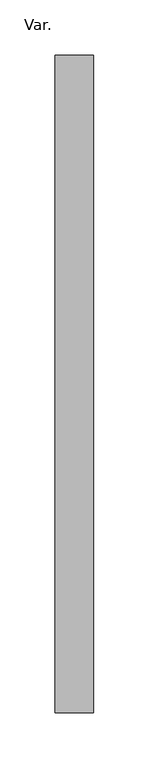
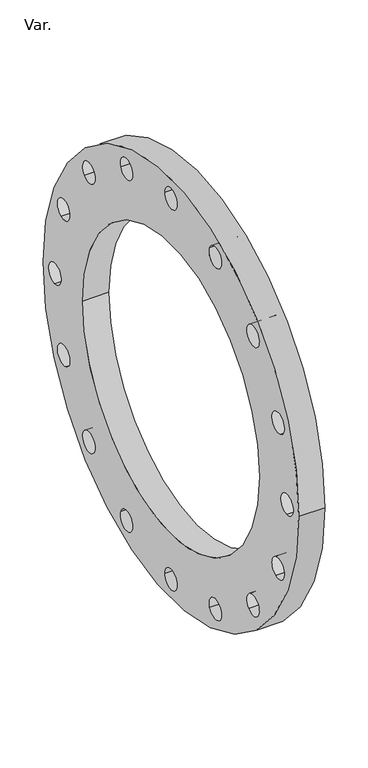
"""IFC4 building model written with IfcOpenShell, lengths in millimetres: pipe fitting geometry, PavcoWavin_UnionesDeTuberia_PEAD Acuaflex_ZNousarFlancheMetálicoUniversal : Var.."""

import ifcopenshell
import ifcopenshell.guid

model = None  # the IFC model being written
_history = None  # IfcOwnerHistory: only IFC2X3 demands one
_inside = {}  # id of a spatial element -> (the spatial element, [elements in it])
_under = {}  # id of a project, library or spatial element -> (it, [spatial elements below it])
_declared = {}  # id of a project -> (the project, [libraries it declares])
_typed = {}  # id of a type object -> (the type object, [elements of that type])
_made_of = {}  # id of a material, layer set ... -> (it, [elements and type objects made of it])


def new_model(schema):
    """Start an empty IFC model of exactly this schema.

    Asked for "IFC4X3", IfcOpenShell would pick the latest addendum, in which some entities
    have other attributes; the version numbers below select the first issue.
    IFC2X3 requires an IfcOwnerHistory on every rooted entity: one is made here for all.
    """
    global model, _history
    if schema == "IFC4X3":
        model = ifcopenshell.file(schema_version=(4, 3, 0, 0))
    else:
        model = ifcopenshell.file(schema=schema)
    _inside.clear()
    _under.clear()
    _declared.clear()
    _typed.clear()
    _made_of.clear()
    _history = None
    if model.schema == "IFC2X3":
        org = make("IfcOrganization", Name="unknown")
        user = make(
            "IfcPersonAndOrganization",
            ThePerson=make("IfcPerson", FamilyName="unknown"),
            TheOrganization=org,
        )
        app = make(
            "IfcApplication",
            ApplicationDeveloper=org,
            Version="unknown",
            ApplicationFullName="unknown",
            ApplicationIdentifier="unknown",
        )
        _history = make(
            "IfcOwnerHistory",
            OwningUser=user,
            OwningApplication=app,
            ChangeAction="ADDED",
            CreationDate=0,
        )
    return model


def make(cls, **values):
    """One entity of the class cls with the attributes given. An attribute that is None is left unset."""
    return model.create_entity(
        cls, **{name: value for name, value in values.items() if value is not None}
    )


def rooted(cls, **values):
    """An entity with a GlobalId (a new one), such as an element, a storey or a relation."""
    return make(cls, GlobalId=ifcopenshell.guid.new(), OwnerHistory=_history, **values)


def si_unit(unit_type, name, prefix=None):
    """IfcSIUnit, for example si_unit("LENGTHUNIT", "METRE", prefix="MILLI")."""
    return make("IfcSIUnit", UnitType=unit_type, Prefix=prefix, Name=name)


def assignment(units):
    """IfcUnitAssignment: the units of a project."""
    return None if units is None else make("IfcUnitAssignment", Units=units)


def point(xyz):
    """IfcCartesianPoint."""
    return None if xyz is None else make("IfcCartesianPoint", Coordinates=xyz)


def direction(xyz):
    """IfcDirection."""
    return None if xyz is None else make("IfcDirection", DirectionRatios=xyz)


def frame(location, z_axis=None, x_axis=None):
    """IfcAxis2Placement3D, a coordinate frame: its origin and axes. An axis left out is left unset."""
    return make(
        "IfcAxis2Placement3D",
        Location=point(location),
        Axis=direction(z_axis),
        RefDirection=direction(x_axis),
    )


def frame_2d(location, x_axis=None):
    """IfcAxis2Placement2D, a coordinate frame in the plane: its origin and x axis."""
    return make(
        "IfcAxis2Placement2D", Location=point(location), RefDirection=direction(x_axis)
    )


def origin():
    """The frame at (0, 0, 0) with its axes left unset."""
    return frame((0.0, 0.0, 0.0))


def origin_2d():
    """The frame at (0, 0) in the plane with its x axis left unset."""
    return frame_2d((0.0, 0.0))


def place(relative_to, where):
    """IfcLocalPlacement: puts the frame where relative to a parent placement (None: the world)."""
    return make(
        "IfcLocalPlacement", PlacementRelTo=relative_to, RelativePlacement=where
    )


def context(
    kind, dimensions, precision=None, world=None, true_north=None, identifier=None
):
    """IfcGeometricRepresentationContext, for example the 3D "Model" context."""
    return make(
        "IfcGeometricRepresentationContext",
        ContextIdentifier=identifier,
        ContextType=kind,
        CoordinateSpaceDimension=dimensions,
        Precision=precision,
        WorldCoordinateSystem=world,
        TrueNorth=true_north,
    )


def project(units=None, contexts=None):
    """IfcProject with its units and contexts."""
    return rooted(
        "IfcProject",
        Name="project",
        RepresentationContexts=contexts,
        UnitsInContext=assignment(units),
    )


def spatial(cls, under=None, at=None, **own):
    """A site, building, storey or space (cls), placed at a placement, below another one or the project."""
    s = rooted(cls, ObjectPlacement=at, **own)
    if under is not None:
        _under.setdefault(under.id(), (under, []))[1].append(s)
    return s


def circle_curve(where, radius):
    """IfcCircle in the frame where."""
    return make("IfcCircle", Position=where, Radius=radius)


def trimmed(basis, trim1, trim2, sense, master):
    """IfcTrimmedCurve: the piece of a basis curve between two trims."""
    return make(
        "IfcTrimmedCurve",
        BasisCurve=basis,
        Trim1=trim1,
        Trim2=trim2,
        SenseAgreement=sense,
        MasterRepresentation=master,
    )


def segment(curve, same_sense, transition):
    """IfcCompositeCurveSegment."""
    return make(
        "IfcCompositeCurveSegment",
        Transition=transition,
        SameSense=same_sense,
        ParentCurve=curve,
    )


def composite_curve(segments, self_intersect=None):
    """IfcCompositeCurve: segments joined end to end."""
    return make("IfcCompositeCurve", Segments=segments, SelfIntersect=self_intersect)


def outline(outer, holes=None, kind="AREA"):
    """IfcArbitraryClosedProfileDef: a profile drawn as a closed curve; with holes, ...WithVoids."""
    if holes is None:
        return make("IfcArbitraryClosedProfileDef", ProfileType=kind, OuterCurve=outer)
    return make(
        "IfcArbitraryProfileDefWithVoids",
        ProfileType=kind,
        OuterCurve=outer,
        InnerCurves=holes,
    )


def extrude(swept, where, along, depth):
    """IfcExtrudedAreaSolid: the profile swept, set in the frame where, extruded along a direction by depth."""
    return make(
        "IfcExtrudedAreaSolid",
        SweptArea=swept,
        Position=where,
        ExtrudedDirection=direction(along),
        Depth=depth,
    )


def shape(context_of_items, identifier, shape_type, items):
    """IfcShapeRepresentation: the items that make up one representation, for example the "Body"."""
    return make(
        "IfcShapeRepresentation",
        ContextOfItems=context_of_items,
        RepresentationIdentifier=identifier,
        RepresentationType=shape_type,
        Items=items,
    )


def source(mapping_origin, context_of_items, identifier, shape_type, items):
    """IfcRepresentationMap: a shape defined once, which mapped items show again and again."""
    return make(
        "IfcRepresentationMap",
        MappingOrigin=mapping_origin,
        MappedRepresentation=shape(context_of_items, identifier, shape_type, items),
    )


def transform(
    local_origin,
    x_axis=None,
    y_axis=None,
    z_axis=None,
    scale=None,
    scale2=None,
    scale3=None,
    uniform=True,
):
    """IfcCartesianTransformationOperator3D, or its non-uniform kind. x_axis, y_axis, z_axis: its Axis1, 2, 3."""
    if uniform:
        return make(
            "IfcCartesianTransformationOperator3D",
            Axis1=direction(x_axis),
            Axis2=direction(y_axis),
            LocalOrigin=point(local_origin),
            Scale=scale,
            Axis3=direction(z_axis),
        )
    return make(
        "IfcCartesianTransformationOperator3DnonUniform",
        Axis1=direction(x_axis),
        Axis2=direction(y_axis),
        LocalOrigin=point(local_origin),
        Scale=scale,
        Axis3=direction(z_axis),
        Scale2=scale2,
        Scale3=scale3,
    )


def mapped(mapping_source, mapping_target):
    """IfcMappedItem: shows the shape of a source again, moved by a transform."""
    return make(
        "IfcMappedItem", MappingSource=mapping_source, MappingTarget=mapping_target
    )


def made_of(thing, what):
    """Note that an element or type object is made of a material, layer set ...; save() writes the relation."""
    if what is not None:
        _made_of.setdefault(what.id(), (what, []))[1].append(thing)
    return thing


def element(
    cls,
    number,
    at=None,
    inside=None,
    cuts=None,
    type_object=None,
    material=None,
    context=None,
    identifier="Body",
    shape_type=None,
    held_by="IfcProductDefinitionShape",
    body=None,
    shapes=None,
    **own,
):
    """One element of the class cls, such as IfcWall. Its Tag is "e" and its number.

    at: its placement. inside: the storey or other place that contains it. cuts: it is an
    opening in that element (IfcRelVoidsElement). A single representation is given by context,
    identifier, shape_type and body (its items); several are given by shapes. held_by: the class
    of the entity that holds the representations. save() writes the other relations.
    """
    e = rooted(cls, Tag="e%d" % number, ObjectPlacement=at, **own)
    if body is not None:
        shapes = [shape(context, identifier, shape_type, body)]
    if shapes is not None:
        e.Representation = make(held_by, Representations=shapes)
    if inside is not None:
        _inside.setdefault(inside.id(), (inside, []))[1].append(e)
    if cuts is not None:
        rooted(
            "IfcRelVoidsElement", RelatingBuildingElement=cuts, RelatedOpeningElement=e
        )
    if type_object is not None:
        _typed.setdefault(type_object.id(), (type_object, []))[1].append(e)
    return made_of(e, material)


def aggregate(whole, parts):
    """IfcRelAggregates: a whole, such as a stair, and the parts it consists of."""
    return rooted("IfcRelAggregates", RelatingObject=whole, RelatedObjects=parts)


def save(model, path):
    """Write the relations noted so far, then the file.

    IfcRelAggregates (storeys below a building ...), IfcRelContainedInSpatialStructure (elements
    in a storey), IfcRelDefinesByType, IfcRelAssociatesMaterial and IfcRelDeclares: one each for
    every whole, place, type object, material and project.
    """
    for whole, parts in _under.values():
        aggregate(whole, parts)
    for where, things in _inside.values():
        rooted(
            "IfcRelContainedInSpatialStructure",
            RelatedElements=things,
            RelatingStructure=where,
        )
    for kind, things in _typed.values():
        rooted("IfcRelDefinesByType", RelatedObjects=things, RelatingType=kind)
    for what, things in _made_of.values():
        rooted("IfcRelAssociatesMaterial", RelatedObjects=things, RelatingMaterial=what)
    for by, libraries in _declared.values():
        rooted("IfcRelDeclares", RelatingContext=by, RelatedDefinitions=libraries)
    model.write(path)


def var_b38d9553(model_context):
    return source(origin(), model_context, "Body", "SweptSolid", [
        extrude(outline(composite_curve([segment(trimmed(circle_curve(origin_2d(), 297.5), [point((-297.5, 0.0))], [point((297.5, 0.0))], False, "CARTESIAN"), True, "CONTINUOUS"), segment(trimmed(circle_curve(origin_2d(), 297.5), [point((297.5, 0.0))], [point((-297.5, 0.0))], False, "CARTESIAN"), True, "CONTINUOUS")], self_intersect=False), holes=[composite_curve([segment(trimmed(circle_curve(origin_2d(), 205.25), [point((-205.25, 0.0))], [point((205.25, 0.0))], True, "CARTESIAN"), True, "CONTINUOUS"), segment(trimmed(circle_curve(origin_2d(), 205.25), [point((205.25, 0.0))], [point((-205.25, 0.0))], True, "CARTESIAN"), True, "CONTINUOUS")], self_intersect=False), composite_curve([segment(trimmed(circle_curve(frame_2d((0.0, 269.9)), 14.3), [point((-14.3, 269.9))], [point((14.3, 269.9))], True, "CARTESIAN"), True, "CONTINUOUS"), segment(trimmed(circle_curve(frame_2d((0.0, 269.9)), 14.3), [point((14.3, 269.9))], [point((-14.3, 269.9))], True, "CARTESIAN"), True, "CONTINUOUS")], self_intersect=False), composite_curve([segment(trimmed(circle_curve(frame_2d((-103.2862584, 249.3550858)), 14.3), [point((-116.4977357, 243.8827127))], [point((-90.0747811, 254.8274589))], True, "CARTESIAN"), True, "CONTINUOUS"), segment(trimmed(circle_curve(frame_2d((-103.2862584, 249.3550858)), 14.3), [point((-90.0747811, 254.8274589))], [point((-116.4977357, 243.8827127))], True, "CARTESIAN"), True, "CONTINUOUS")], self_intersect=False), composite_curve([segment(trimmed(circle_curve(frame_2d((103.2862584, 249.3550858)), 14.3), [point((90.0747811, 254.8274589))], [point((116.4977357, 243.8827127))], True, "CARTESIAN"), True, "CONTINUOUS"), segment(trimmed(circle_curve(frame_2d((103.2862584, 249.3550858)), 14.3), [point((116.4977357, 243.8827127))], [point((90.0747811, 254.8274589))], True, "CARTESIAN"), True, "CONTINUOUS")], self_intersect=False), composite_curve([segment(trimmed(circle_curve(frame_2d((190.8481202, 190.8481202)), 14.3), [point((180.7364933, 200.9597472))], [point((200.9597472, 180.7364933))], True, "CARTESIAN"), True, "CONTINUOUS"), segment(trimmed(circle_curve(frame_2d((190.8481202, 190.8481202)), 14.3), [point((200.9597472, 180.7364933))], [point((180.7364933, 200.9597472))], True, "CARTESIAN"), True, "CONTINUOUS")], self_intersect=False), composite_curve([segment(trimmed(circle_curve(frame_2d((249.3550858, 103.2862584)), 14.3), [point((243.8827127, 116.4977357))], [point((254.8274589, 90.0747811))], True, "CARTESIAN"), True, "CONTINUOUS"), segment(trimmed(circle_curve(frame_2d((249.3550858, 103.2862584)), 14.3), [point((254.8274589, 90.0747811))], [point((243.8827127, 116.4977357))], True, "CARTESIAN"), True, "CONTINUOUS")], self_intersect=False), composite_curve([segment(trimmed(circle_curve(frame_2d((269.9, 0.0)), 14.3), [point((269.9, 14.3))], [point((269.9, -14.3))], True, "CARTESIAN"), True, "CONTINUOUS"), segment(trimmed(circle_curve(frame_2d((269.9, 0.0)), 14.3), [point((269.9, -14.3))], [point((269.9, 14.3))], True, "CARTESIAN"), True, "CONTINUOUS")], self_intersect=False), composite_curve([segment(trimmed(circle_curve(frame_2d((249.3550858, -103.2862584)), 14.3), [point((254.8274589, -90.0747811))], [point((243.8827127, -116.4977357))], True, "CARTESIAN"), True, "CONTINUOUS"), segment(trimmed(circle_curve(frame_2d((249.3550858, -103.2862584)), 14.3), [point((243.8827127, -116.4977357))], [point((254.8274589, -90.0747811))], True, "CARTESIAN"), True, "CONTINUOUS")], self_intersect=False), composite_curve([segment(trimmed(circle_curve(frame_2d((190.8481202, -190.8481202)), 14.3), [point((200.9597472, -180.7364933))], [point((180.7364933, -200.9597472))], True, "CARTESIAN"), True, "CONTINUOUS"), segment(trimmed(circle_curve(frame_2d((190.8481202, -190.8481202)), 14.3), [point((180.7364933, -200.9597472))], [point((200.9597472, -180.7364933))], True, "CARTESIAN"), True, "CONTINUOUS")], self_intersect=False), composite_curve([segment(trimmed(circle_curve(frame_2d((103.2862584, -249.3550858)), 14.3), [point((116.4977357, -243.8827127))], [point((90.0747811, -254.8274589))], True, "CARTESIAN"), True, "CONTINUOUS"), segment(trimmed(circle_curve(frame_2d((103.2862584, -249.3550858)), 14.3), [point((90.0747811, -254.8274589))], [point((116.4977357, -243.8827127))], True, "CARTESIAN"), True, "CONTINUOUS")], self_intersect=False), composite_curve([segment(trimmed(circle_curve(frame_2d((0.0, -269.9)), 14.3), [point((14.3, -269.9))], [point((-14.3, -269.9))], True, "CARTESIAN"), True, "CONTINUOUS"), segment(trimmed(circle_curve(frame_2d((0.0, -269.9)), 14.3), [point((-14.3, -269.9))], [point((14.3, -269.9))], True, "CARTESIAN"), True, "CONTINUOUS")], self_intersect=False), composite_curve([segment(trimmed(circle_curve(frame_2d((-103.2862584, -249.3550858)), 14.3), [point((-90.0747811, -254.8274589))], [point((-116.4977357, -243.8827127))], True, "CARTESIAN"), True, "CONTINUOUS"), segment(trimmed(circle_curve(frame_2d((-103.2862584, -249.3550858)), 14.3), [point((-116.4977357, -243.8827127))], [point((-90.0747811, -254.8274589))], True, "CARTESIAN"), True, "CONTINUOUS")], self_intersect=False), composite_curve([segment(trimmed(circle_curve(frame_2d((-190.8481202, -190.8481202)), 14.3), [point((-180.7364933, -200.9597472))], [point((-200.9597472, -180.7364933))], True, "CARTESIAN"), True, "CONTINUOUS"), segment(trimmed(circle_curve(frame_2d((-190.8481202, -190.8481202)), 14.3), [point((-200.9597472, -180.7364933))], [point((-180.7364933, -200.9597472))], True, "CARTESIAN"), True, "CONTINUOUS")], self_intersect=False), composite_curve([segment(trimmed(circle_curve(frame_2d((-249.3550858, -103.2862584)), 14.3), [point((-243.8827127, -116.4977357))], [point((-254.8274589, -90.0747811))], True, "CARTESIAN"), True, "CONTINUOUS"), segment(trimmed(circle_curve(frame_2d((-249.3550858, -103.2862584)), 14.3), [point((-254.8274589, -90.0747811))], [point((-243.8827127, -116.4977357))], True, "CARTESIAN"), True, "CONTINUOUS")], self_intersect=False), composite_curve([segment(trimmed(circle_curve(frame_2d((-269.9, 0.0)), 14.3), [point((-269.9, -14.3))], [point((-269.9, 14.3))], True, "CARTESIAN"), True, "CONTINUOUS"), segment(trimmed(circle_curve(frame_2d((-269.9, 0.0)), 14.3), [point((-269.9, 14.3))], [point((-269.9, -14.3))], True, "CARTESIAN"), True, "CONTINUOUS")], self_intersect=False), composite_curve([segment(trimmed(circle_curve(frame_2d((-249.3550858, 103.2862584)), 14.3), [point((-254.8274589, 90.0747811))], [point((-243.8827127, 116.4977357))], True, "CARTESIAN"), True, "CONTINUOUS"), segment(trimmed(circle_curve(frame_2d((-249.3550858, 103.2862584)), 14.3), [point((-243.8827127, 116.4977357))], [point((-254.8274589, 90.0747811))], True, "CARTESIAN"), True, "CONTINUOUS")], self_intersect=False), composite_curve([segment(trimmed(circle_curve(frame_2d((-190.8481202, 190.8481202)), 14.3), [point((-200.9597472, 180.7364933))], [point((-180.7364933, 200.9597472))], True, "CARTESIAN"), True, "CONTINUOUS"), segment(trimmed(circle_curve(frame_2d((-190.8481202, 190.8481202)), 14.3), [point((-180.7364933, 200.9597472))], [point((-200.9597472, 180.7364933))], True, "CARTESIAN"), True, "CONTINUOUS")], self_intersect=False)]), frame((0.0, 0.0, 0.0), z_axis=(1.0, 0.0, 0.0), x_axis=(0.0, 1.0, 0.0)), (0.0, 0.0, 1.0), 35.0),
    ])


if __name__ == "__main__":
    model = new_model("IFC4")
    model_context = context("Model", 3, world=origin())
    ifc_project = project(units=[si_unit("LENGTHUNIT", "METRE", prefix="MILLI")], contexts=[model_context])
    site = spatial("IfcSite", under=ifc_project)
    building = spatial("IfcBuilding", under=site)
    placement = place(None, origin())
    var_shape = var_b38d9553(model_context)
    element("IfcPipeFitting", 1, ObjectType="PavcoWavin_UnionesDeTuberia_PEAD Acuaflex_ZNousarFlancheMetálicoUniversal : Var.", at=placement, inside=building, context=model_context, shape_type="MappedRepresentation", body=[
        mapped(var_shape, transform((0.0, 0.0, 0.0), x_axis=(1.0, 0.0, 0.0), y_axis=(0.0, 1.0, 0.0), z_axis=(0.0, 0.0, 1.0))),
    ])
    save(model, "model.ifc")
